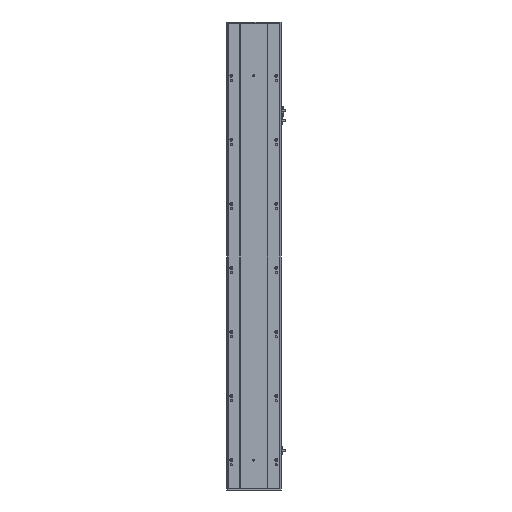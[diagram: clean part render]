
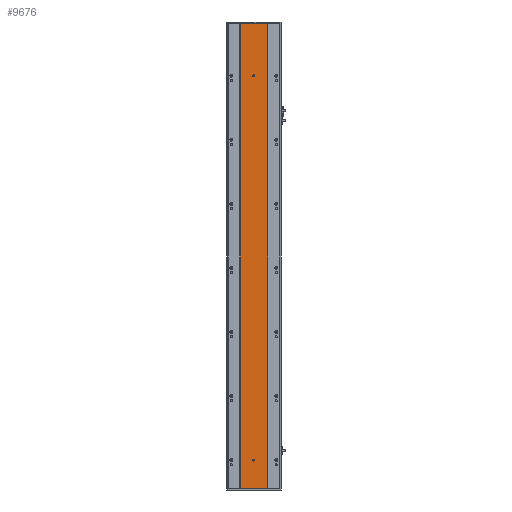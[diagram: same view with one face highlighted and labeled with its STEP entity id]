
A CAD part, front view. The second image highlights one B-rep face of the part: STEP entity #9676.
In plain terms, the highlighted planar face has unit normal (0, -1, 0).
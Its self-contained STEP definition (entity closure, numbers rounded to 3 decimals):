
#266 = CARTESIAN_POINT ( 'NONE',  ( 85., 2.57, 88.5 ) ) ;
#295 = EDGE_CURVE ( 'NONE', #457, #956, #14167, .T. ) ;
#457 = VERTEX_POINT ( 'NONE', #15549 ) ;
#684 = CARTESIAN_POINT ( 'NONE',  ( 85., 2.57, 91.5 ) ) ;
#956 = VERTEX_POINT ( 'NONE', #684 ) ;
#1924 = CARTESIAN_POINT ( 'NONE',  ( 42.916, 2.57, 0. ) ) ;
#2056 = CARTESIAN_POINT ( 'NONE',  ( 85., 2.57, 1291.5 ) ) ;
#2332 = DIRECTION ( 'NONE',  ( 0., 0., 1. ) ) ;
#2654 = EDGE_CURVE ( 'NONE', #956, #457, #3470, .T. ) ;
#2970 = FACE_BOUND ( 'NONE', #22346, .T. ) ;
#3293 = CARTESIAN_POINT ( 'NONE',  ( 85., 2.57, 1288.5 ) ) ;
#3410 = CARTESIAN_POINT ( 'NONE',  ( 126.916, 2.57, 0. ) ) ;
#3470 = CIRCLE ( 'NONE', #18722, 3. ) ;
#3500 = DIRECTION ( 'NONE',  ( 0., 1., 0. ) ) ;
#3978 = DIRECTION ( 'NONE',  ( 0., 1., 0. ) ) ;
#4648 = DIRECTION ( 'NONE',  ( 0., 1., 0. ) ) ;
#4738 = DIRECTION ( 'NONE',  ( 0., 0., 1. ) ) ;
#5118 = ORIENTED_EDGE ( 'NONE', *, *, #18977, .T. ) ;
#5183 = DIRECTION ( 'NONE',  ( 0., 0., 1. ) ) ;
#5329 = DIRECTION ( 'NONE',  ( 0., 0., 1. ) ) ;
#5457 = VERTEX_POINT ( 'NONE', #24360 ) ;
#5533 = CIRCLE ( 'NONE', #14657, 3. ) ;
#6247 = VECTOR ( 'NONE', #12478, 1000. ) ;
#6806 = AXIS2_PLACEMENT_3D ( 'NONE', #12499, #4648, #4738 ) ;
#6896 = VECTOR ( 'NONE', #11036, 1000. ) ;
#7223 = CARTESIAN_POINT ( 'NONE',  ( 42.916, 2.57, 0. ) ) ;
#8048 = VERTEX_POINT ( 'NONE', #3410 ) ;
#8756 = CARTESIAN_POINT ( 'NONE',  ( 42.916, 2.57, 0. ) ) ;
#8998 = LINE ( 'NONE', #24697, #19607 ) ;
#9024 = CARTESIAN_POINT ( 'NONE',  ( 42.916, 2.57, 1451. ) ) ;
#9676 = ADVANCED_FACE ( 'NONE', ( #14267, #2970, #13659 ), #15972, .F. ) ;
#9904 = EDGE_CURVE ( 'NONE', #8048, #23931, #8998, .T. ) ;
#10257 = ORIENTED_EDGE ( 'NONE', *, *, #15075, .F. ) ;
#10381 = VERTEX_POINT ( 'NONE', #2056 ) ;
#10505 = CARTESIAN_POINT ( 'NONE',  ( 126.916, 2.57, 0. ) ) ;
#11036 = DIRECTION ( 'NONE',  ( -1., 0., 0. ) ) ;
#11080 = VECTOR ( 'NONE', #5183, 1000. ) ;
#12116 = EDGE_CURVE ( 'NONE', #13657, #10381, #5533, .T. ) ;
#12478 = DIRECTION ( 'NONE',  ( 0., 0., 1. ) ) ;
#12499 = CARTESIAN_POINT ( 'NONE',  ( 85., 2.57, 88.5 ) ) ;
#12638 = ORIENTED_EDGE ( 'NONE', *, *, #17296, .T. ) ;
#12727 = DIRECTION ( 'NONE',  ( -1., 0., 0. ) ) ;
#13657 = VERTEX_POINT ( 'NONE', #18248 ) ;
#13659 = FACE_OUTER_BOUND ( 'NONE', #14528, .T. ) ;
#14040 = LINE ( 'NONE', #10505, #6247 ) ;
#14167 = CIRCLE ( 'NONE', #6806, 3. ) ;
#14267 = FACE_BOUND ( 'NONE', #23537, .T. ) ;
#14356 = DIRECTION ( 'NONE',  ( 0., 1., 0. ) ) ;
#14528 = EDGE_LOOP ( 'NONE', ( #12638, #10257, #19332, #21035 ) ) ;
#14657 = AXIS2_PLACEMENT_3D ( 'NONE', #15502, #3500, #17514 ) ;
#15075 = EDGE_CURVE ( 'NONE', #23931, #5457, #21715, .T. ) ;
#15502 = CARTESIAN_POINT ( 'NONE',  ( 85., 2.57, 1288.5 ) ) ;
#15549 = CARTESIAN_POINT ( 'NONE',  ( 85., 2.57, 85.5 ) ) ;
#15972 = PLANE ( 'NONE',  #20986 ) ;
#16204 = CARTESIAN_POINT ( 'NONE',  ( 126.916, 2.57, 1451. ) ) ;
#17173 = CIRCLE ( 'NONE', #20394, 3. ) ;
#17296 = EDGE_CURVE ( 'NONE', #25978, #5457, #22836, .T. ) ;
#17316 = DIRECTION ( 'NONE',  ( 0., 1., 0. ) ) ;
#17514 = DIRECTION ( 'NONE',  ( 0., 0., 1. ) ) ;
#17765 = EDGE_CURVE ( 'NONE', #8048, #25978, #14040, .T. ) ;
#17996 = DIRECTION ( 'NONE',  ( 0., 0., 1. ) ) ;
#18248 = CARTESIAN_POINT ( 'NONE',  ( 85., 2.57, 1285.5 ) ) ;
#18722 = AXIS2_PLACEMENT_3D ( 'NONE', #266, #14356, #2332 ) ;
#18977 = EDGE_CURVE ( 'NONE', #10381, #13657, #17173, .T. ) ;
#19332 = ORIENTED_EDGE ( 'NONE', *, *, #9904, .F. ) ;
#19528 = ORIENTED_EDGE ( 'NONE', *, *, #12116, .T. ) ;
#19607 = VECTOR ( 'NONE', #12727, 1000. ) ;
#20394 = AXIS2_PLACEMENT_3D ( 'NONE', #3293, #17316, #5329 ) ;
#20986 = AXIS2_PLACEMENT_3D ( 'NONE', #1924, #3978, #17996 ) ;
#21035 = ORIENTED_EDGE ( 'NONE', *, *, #17765, .T. ) ;
#21550 = ORIENTED_EDGE ( 'NONE', *, *, #2654, .T. ) ;
#21715 = LINE ( 'NONE', #7223, #11080 ) ;
#22346 = EDGE_LOOP ( 'NONE', ( #19528, #5118 ) ) ;
#22836 = LINE ( 'NONE', #9024, #6896 ) ;
#23537 = EDGE_LOOP ( 'NONE', ( #25443, #21550 ) ) ;
#23931 = VERTEX_POINT ( 'NONE', #8756 ) ;
#24360 = CARTESIAN_POINT ( 'NONE',  ( 42.916, 2.57, 1451. ) ) ;
#24697 = CARTESIAN_POINT ( 'NONE',  ( 42.916, 2.57, 0. ) ) ;
#25443 = ORIENTED_EDGE ( 'NONE', *, *, #295, .T. ) ;
#25978 = VERTEX_POINT ( 'NONE', #16204 ) ;
